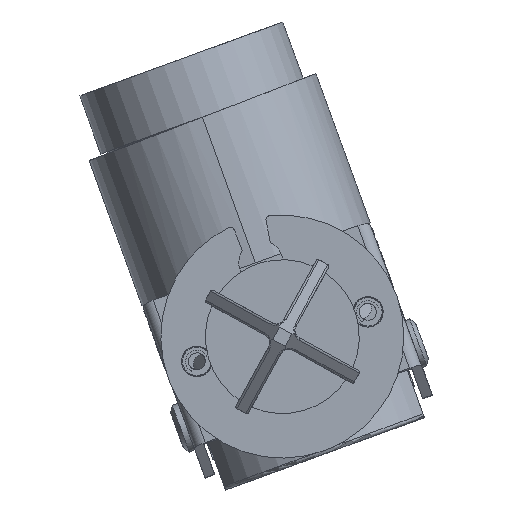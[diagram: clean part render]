
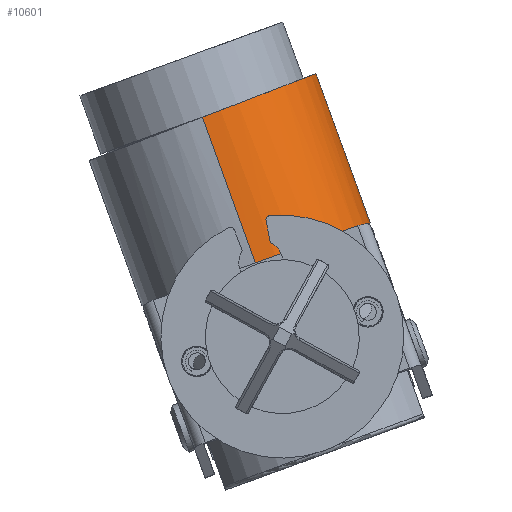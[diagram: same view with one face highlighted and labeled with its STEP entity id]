
A CAD part, left-side view. The second image highlights one B-rep face of the part: STEP entity #10601.
In plain terms, the highlighted cylindrical face has radius 30 mm (diameter 60 mm), a partial arc.
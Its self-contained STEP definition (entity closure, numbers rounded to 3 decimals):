
#3161=CARTESIAN_POINT('',(-50.042,-0.002,
30.));
#3185=CARTESIAN_POINT('',(-50.042,-0.002,
-30.));
#3187=DIRECTION('',(-1.,0.,0.));
#3188=VECTOR('',#3187,38.642);
#3189=CARTESIAN_POINT('',(-11.4,0.,-30.));
#3190=LINE('',#3189,#3188);
#3191=CARTESIAN_POINT('',(-50.042,-0.002,
-30.));
#3192=CARTESIAN_POINT('',(-50.068,-1.437,
-30.));
#3193=CARTESIAN_POINT('',(-50.117,-4.28,
-29.796));
#3194=CARTESIAN_POINT('',(-50.19,-8.482,
-28.883));
#3195=CARTESIAN_POINT('',(-50.261,-12.505,
-27.382));
#3196=CARTESIAN_POINT('',(-50.327,-16.275,
-25.324));
#3197=CARTESIAN_POINT('',(-50.387,-19.713,
-22.75));
#3198=CARTESIAN_POINT('',(-50.44,-22.75,
-19.713));
#3199=CARTESIAN_POINT('',(-50.484,-25.323,
-16.275));
#3200=CARTESIAN_POINT('',(-50.52,-27.381,
-12.506));
#3201=CARTESIAN_POINT('',(-50.547,-28.882,
-8.482));
#3202=CARTESIAN_POINT('',(-50.563,-29.795,
-4.286));
#3203=CARTESIAN_POINT('',(-50.568,-30.102,
-0.003));
#3204=CARTESIAN_POINT('',(-50.563,-29.796,
4.281));
#3205=CARTESIAN_POINT('',(-50.547,-28.884,
8.477));
#3206=CARTESIAN_POINT('',(-50.52,-27.383,
12.502));
#3207=CARTESIAN_POINT('',(-50.484,-25.325,
16.272));
#3208=CARTESIAN_POINT('',(-50.44,-22.752,
19.71));
#3209=CARTESIAN_POINT('',(-50.387,-19.715,
22.748));
#3210=CARTESIAN_POINT('',(-50.327,-16.277,
25.322));
#3211=CARTESIAN_POINT('',(-50.261,-12.506,
27.381));
#3212=CARTESIAN_POINT('',(-50.191,-8.483,
28.882));
#3213=CARTESIAN_POINT('',(-50.117,-4.281,
29.796));
#3214=CARTESIAN_POINT('',(-50.068,-1.437,
30.));
#3215=CARTESIAN_POINT('',(-50.042,-0.002,
30.));
#3217=DIRECTION('',(1.,0.,0.));
#3218=VECTOR('',#3217,38.642);
#3219=CARTESIAN_POINT('',(-50.042,-0.002,
30.));
#3220=LINE('',#3219,#3218);
#3221=CARTESIAN_POINT('',(-11.4,0.,0.));
#3222=DIRECTION('',(-1.,0.,0.));
#3223=DIRECTION('',(0.,0.,-1.));
#3224=AXIS2_PLACEMENT_3D('',#3221,#3222,#3223);
#6628=VERTEX_POINT('',#3161);
#6629=VERTEX_POINT('',#3185);
#6630=CARTESIAN_POINT('',(-11.4,0.,30.));
#6631=VERTEX_POINT('',#6630);
#6632=CARTESIAN_POINT('',(-11.4,0.,-30.));
#6633=VERTEX_POINT('',#6632);
#10589=CARTESIAN_POINT('',(2.642,0.,0.));
#10590=DIRECTION('',(1.,0.,0.));
#10591=DIRECTION('',(0.,0.,-1.));
#10592=AXIS2_PLACEMENT_3D('',#10589,#10590,#10591);
#10593=CYLINDRICAL_SURFACE('',#10592,30.);
#10594=ORIENTED_EDGE('',*,*,#10580,.T.);
#10595=ORIENTED_EDGE('',*,*,#10552,.T.);
#10596=ORIENTED_EDGE('',*,*,#10584,.T.);
#10598=ORIENTED_EDGE('',*,*,#10597,.F.);
#10599=EDGE_LOOP('',(#10594,#10595,#10596,#10598));
#10600=FACE_OUTER_BOUND('',#10599,.F.);
#10601=ADVANCED_FACE('',(#10600),#10593,.T.);
#3216=B_SPLINE_CURVE_WITH_KNOTS('',3,(#3191,#3192,#3193,#3194,#3195,#3196,#3197,
#3198,#3199,#3200,#3201,#3202,#3203,#3204,#3205,#3206,#3207,#3208,#3209,#3210,
#3211,#3212,#3213,#3214,#3215),.UNSPECIFIED.,.F.,.F.,(4,1,1,1,1,1,1,1,1,1,1,1,1,
1,1,1,1,1,1,1,1,1,4),(0.,0.045,0.091,
0.136,0.182,0.227,0.273,
0.318,0.364,0.409,0.455,0.5,
0.545,0.591,0.636,0.682,
0.727,0.773,0.818,0.864,
0.909,0.955,1.),.UNSPECIFIED.);
#3225=CIRCLE('',#3224,30.);
#10552=EDGE_CURVE('',#6629,#6628,#3216,.T.);
#10580=EDGE_CURVE('',#6633,#6629,#3190,.T.);
#10584=EDGE_CURVE('',#6628,#6631,#3220,.T.);
#10597=EDGE_CURVE('',#6633,#6631,#3225,.T.);
